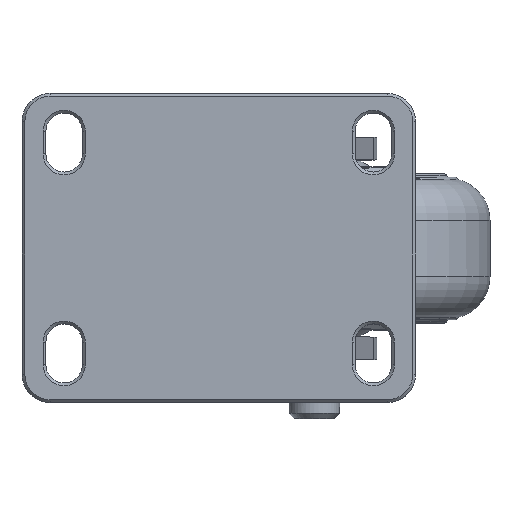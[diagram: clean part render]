
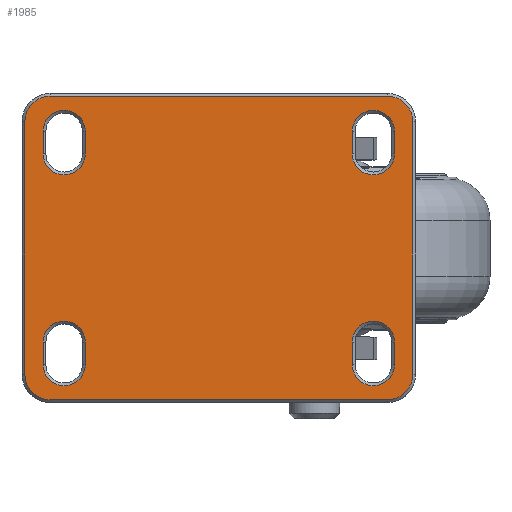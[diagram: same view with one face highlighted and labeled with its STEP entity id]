
A CAD part, top view. The second image highlights one B-rep face of the part: STEP entity #1985.
In plain terms, the highlighted planar face has unit normal (0, 0, 1).
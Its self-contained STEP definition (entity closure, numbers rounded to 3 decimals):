
#536=PLANE('',#9442);
#799=FACE_BOUND('',#3111,.T.);
#800=FACE_BOUND('',#3112,.T.);
#801=FACE_BOUND('',#3113,.T.);
#802=FACE_BOUND('',#3114,.T.);
#803=FACE_BOUND('',#3115,.T.);
#1035=LINE('',#14232,#1500);
#1036=LINE('',#14236,#1501);
#1037=LINE('',#14240,#1502);
#1038=LINE('',#14244,#1503);
#1039=LINE('',#14248,#1504);
#1040=LINE('',#14252,#1505);
#1041=LINE('',#14256,#1506);
#1042=LINE('',#14260,#1507);
#1043=LINE('',#14264,#1508);
#1044=LINE('',#14265,#1509);
#1045=LINE('',#14269,#1510);
#1046=LINE('',#14273,#1511);
#1500=VECTOR('',#11090,1.);
#1501=VECTOR('',#11093,1.);
#1502=VECTOR('',#11096,1.);
#1503=VECTOR('',#11099,1.);
#1504=VECTOR('',#11102,1.);
#1505=VECTOR('',#11105,1.);
#1506=VECTOR('',#11108,1.);
#1507=VECTOR('',#11111,1.);
#1508=VECTOR('',#11114,1.);
#1509=VECTOR('',#11115,1.);
#1510=VECTOR('',#11118,1.);
#1511=VECTOR('',#11121,1.);
#1985=ADVANCED_FACE('',(#799,#800,#801,#802,#803),#536,.T.);
#3111=EDGE_LOOP('',(#4043,#4044,#4045,#4046,#4047,#4048,#4049,#4050));
#3112=EDGE_LOOP('',(#4051,#4052,#4053,#4054));
#3113=EDGE_LOOP('',(#4055,#4056,#4057,#4058));
#3114=EDGE_LOOP('',(#4059,#4060,#4061,#4062));
#3115=EDGE_LOOP('',(#4063,#4064,#4065,#4066));
#4043=ORIENTED_EDGE('',*,*,#7533,.F.);
#4044=ORIENTED_EDGE('',*,*,#7534,.F.);
#4045=ORIENTED_EDGE('',*,*,#7535,.F.);
#4046=ORIENTED_EDGE('',*,*,#7536,.F.);
#4047=ORIENTED_EDGE('',*,*,#7537,.F.);
#4048=ORIENTED_EDGE('',*,*,#7538,.F.);
#4049=ORIENTED_EDGE('',*,*,#7539,.F.);
#4050=ORIENTED_EDGE('',*,*,#7540,.F.);
#4051=ORIENTED_EDGE('',*,*,#7541,.F.);
#4052=ORIENTED_EDGE('',*,*,#7542,.F.);
#4053=ORIENTED_EDGE('',*,*,#7543,.F.);
#4054=ORIENTED_EDGE('',*,*,#7544,.F.);
#4055=ORIENTED_EDGE('',*,*,#7545,.F.);
#4056=ORIENTED_EDGE('',*,*,#7546,.F.);
#4057=ORIENTED_EDGE('',*,*,#7547,.F.);
#4058=ORIENTED_EDGE('',*,*,#7548,.F.);
#4059=ORIENTED_EDGE('',*,*,#7549,.F.);
#4060=ORIENTED_EDGE('',*,*,#7550,.F.);
#4061=ORIENTED_EDGE('',*,*,#7532,.F.);
#4062=ORIENTED_EDGE('',*,*,#7551,.F.);
#4063=ORIENTED_EDGE('',*,*,#7552,.F.);
#4064=ORIENTED_EDGE('',*,*,#7553,.F.);
#4065=ORIENTED_EDGE('',*,*,#7554,.F.);
#4066=ORIENTED_EDGE('',*,*,#7555,.F.);
#6562=VERTEX_POINT('',#14224);
#6563=VERTEX_POINT('',#14226);
#6564=VERTEX_POINT('',#14230);
#6565=VERTEX_POINT('',#14231);
#6566=VERTEX_POINT('',#14233);
#6567=VERTEX_POINT('',#14235);
#6568=VERTEX_POINT('',#14237);
#6569=VERTEX_POINT('',#14239);
#6570=VERTEX_POINT('',#14241);
#6571=VERTEX_POINT('',#14243);
#6572=VERTEX_POINT('',#14246);
#6573=VERTEX_POINT('',#14247);
#6574=VERTEX_POINT('',#14249);
#6575=VERTEX_POINT('',#14251);
#6576=VERTEX_POINT('',#14254);
#6577=VERTEX_POINT('',#14255);
#6578=VERTEX_POINT('',#14257);
#6579=VERTEX_POINT('',#14259);
#6580=VERTEX_POINT('',#14262);
#6581=VERTEX_POINT('',#14263);
#6582=VERTEX_POINT('',#14267);
#6583=VERTEX_POINT('',#14268);
#6584=VERTEX_POINT('',#14270);
#6585=VERTEX_POINT('',#14272);
#7532=EDGE_CURVE('',#6563,#6562,#8853,.T.);
#7533=EDGE_CURVE('',#6564,#6565,#8854,.T.);
#7534=EDGE_CURVE('',#6566,#6564,#1035,.T.);
#7535=EDGE_CURVE('',#6567,#6566,#8855,.T.);
#7536=EDGE_CURVE('',#6568,#6567,#1036,.T.);
#7537=EDGE_CURVE('',#6569,#6568,#8856,.T.);
#7538=EDGE_CURVE('',#6570,#6569,#1037,.T.);
#7539=EDGE_CURVE('',#6571,#6570,#8857,.T.);
#7540=EDGE_CURVE('',#6565,#6571,#1038,.T.);
#7541=EDGE_CURVE('',#6572,#6573,#8858,.T.);
#7542=EDGE_CURVE('',#6574,#6572,#1039,.T.);
#7543=EDGE_CURVE('',#6575,#6574,#8859,.T.);
#7544=EDGE_CURVE('',#6573,#6575,#1040,.T.);
#7545=EDGE_CURVE('',#6576,#6577,#8860,.T.);
#7546=EDGE_CURVE('',#6578,#6576,#1041,.T.);
#7547=EDGE_CURVE('',#6579,#6578,#8861,.T.);
#7548=EDGE_CURVE('',#6577,#6579,#1042,.T.);
#7549=EDGE_CURVE('',#6580,#6581,#8862,.T.);
#7550=EDGE_CURVE('',#6562,#6580,#1043,.T.);
#7551=EDGE_CURVE('',#6581,#6563,#1044,.T.);
#7552=EDGE_CURVE('',#6582,#6583,#8863,.T.);
#7553=EDGE_CURVE('',#6584,#6582,#1045,.T.);
#7554=EDGE_CURVE('',#6585,#6584,#8864,.T.);
#7555=EDGE_CURVE('',#6583,#6585,#1046,.T.);
#8853=CIRCLE('',#9429,7.5);
#8854=CIRCLE('',#9431,9.);
#8855=CIRCLE('',#9432,9.);
#8856=CIRCLE('',#9433,9.);
#8857=CIRCLE('',#9434,9.);
#8858=CIRCLE('',#9435,7.5);
#8859=CIRCLE('',#9436,7.5);
#8860=CIRCLE('',#9437,7.5);
#8861=CIRCLE('',#9438,7.5);
#8862=CIRCLE('',#9439,7.5);
#8863=CIRCLE('',#9440,7.5);
#8864=CIRCLE('',#9441,7.5);
#9429=AXIS2_PLACEMENT_3D('',#14227,#11084,#11085);
#9431=AXIS2_PLACEMENT_3D('',#14229,#11088,#11089);
#9432=AXIS2_PLACEMENT_3D('',#14234,#11091,#11092);
#9433=AXIS2_PLACEMENT_3D('',#14238,#11094,#11095);
#9434=AXIS2_PLACEMENT_3D('',#14242,#11097,#11098);
#9435=AXIS2_PLACEMENT_3D('',#14245,#11100,#11101);
#9436=AXIS2_PLACEMENT_3D('',#14250,#11103,#11104);
#9437=AXIS2_PLACEMENT_3D('',#14253,#11106,#11107);
#9438=AXIS2_PLACEMENT_3D('',#14258,#11109,#11110);
#9439=AXIS2_PLACEMENT_3D('',#14261,#11112,#11113);
#9440=AXIS2_PLACEMENT_3D('',#14266,#11116,#11117);
#9441=AXIS2_PLACEMENT_3D('',#14271,#11119,#11120);
#9442=AXIS2_PLACEMENT_3D('',#14274,#11122,#11123);
#11084=DIRECTION('',(0.,0.,1.));
#11085=DIRECTION('',(1.,0.,0.));
#11088=DIRECTION('',(0.,0.,-1.));
#11089=DIRECTION('',(1.,0.,0.));
#11090=DIRECTION('',(0.,-1.,0.));
#11091=DIRECTION('',(0.,0.,-1.));
#11092=DIRECTION('',(0.,1.,0.));
#11093=DIRECTION('',(1.,0.,0.));
#11094=DIRECTION('',(0.,0.,-1.));
#11095=DIRECTION('',(-1.,0.,0.));
#11096=DIRECTION('',(0.,1.,0.));
#11097=DIRECTION('',(0.,0.,-1.));
#11098=DIRECTION('',(0.,-1.,0.));
#11099=DIRECTION('',(-1.,0.,0.));
#11100=DIRECTION('',(0.,0.,1.));
#11101=DIRECTION('',(-1.,0.,0.));
#11102=DIRECTION('',(0.,-1.,0.));
#11103=DIRECTION('',(0.,0.,1.));
#11104=DIRECTION('',(1.,0.,0.));
#11105=DIRECTION('',(0.,1.,0.));
#11106=DIRECTION('',(0.,0.,1.));
#11107=DIRECTION('',(-1.,0.,0.));
#11108=DIRECTION('',(0.,-1.,0.));
#11109=DIRECTION('',(0.,0.,1.));
#11110=DIRECTION('',(1.,0.,0.));
#11111=DIRECTION('',(0.,1.,0.));
#11112=DIRECTION('',(0.,0.,1.));
#11113=DIRECTION('',(-1.,0.,0.));
#11114=DIRECTION('',(0.,-1.,0.));
#11115=DIRECTION('',(0.,1.,0.));
#11116=DIRECTION('',(0.,0.,1.));
#11117=DIRECTION('',(-1.,0.,0.));
#11118=DIRECTION('',(0.,-1.,0.));
#11119=DIRECTION('',(0.,0.,1.));
#11120=DIRECTION('',(1.,0.,0.));
#11121=DIRECTION('',(0.,1.,0.));
#11122=DIRECTION('',(0.,0.,1.));
#11123=DIRECTION('',(1.,0.,0.));
#14224=CARTESIAN_POINT('',(-62.5,-33.5,0.));
#14226=CARTESIAN_POINT('',(-47.5,-33.5,0.));
#14227=CARTESIAN_POINT('',(-55.,-33.5,0.));
#14229=CARTESIAN_POINT('',(60.,-45.,0.));
#14230=CARTESIAN_POINT('',(69.,-45.,0.));
#14231=CARTESIAN_POINT('',(60.,-54.,0.));
#14232=CARTESIAN_POINT('',(69.,45.,0.));
#14233=CARTESIAN_POINT('',(69.,45.,0.));
#14234=CARTESIAN_POINT('',(60.,45.,0.));
#14235=CARTESIAN_POINT('',(60.,54.,0.));
#14236=CARTESIAN_POINT('',(-60.,54.,0.));
#14237=CARTESIAN_POINT('',(-60.,54.,0.));
#14238=CARTESIAN_POINT('',(-60.,45.,0.));
#14239=CARTESIAN_POINT('',(-69.,45.,0.));
#14240=CARTESIAN_POINT('',(-69.,-45.,0.));
#14241=CARTESIAN_POINT('',(-69.,-45.,0.));
#14242=CARTESIAN_POINT('',(-60.,-45.,0.));
#14243=CARTESIAN_POINT('',(-60.,-54.,0.));
#14244=CARTESIAN_POINT('',(60.,-54.,0.));
#14245=CARTESIAN_POINT('',(55.,33.5,0.));
#14246=CARTESIAN_POINT('',(47.5,33.5,0.));
#14247=CARTESIAN_POINT('',(62.5,33.5,0.));
#14248=CARTESIAN_POINT('',(47.5,41.5,0.));
#14249=CARTESIAN_POINT('',(47.5,41.5,0.));
#14250=CARTESIAN_POINT('',(55.,41.5,0.));
#14251=CARTESIAN_POINT('',(62.5,41.5,0.));
#14252=CARTESIAN_POINT('',(62.5,33.5,0.));
#14253=CARTESIAN_POINT('',(-55.,33.5,0.));
#14254=CARTESIAN_POINT('',(-62.5,33.5,0.));
#14255=CARTESIAN_POINT('',(-47.5,33.5,0.));
#14256=CARTESIAN_POINT('',(-62.5,41.5,0.));
#14257=CARTESIAN_POINT('',(-62.5,41.5,0.));
#14258=CARTESIAN_POINT('',(-55.,41.5,0.));
#14259=CARTESIAN_POINT('',(-47.5,41.5,0.));
#14260=CARTESIAN_POINT('',(-47.5,33.5,0.));
#14261=CARTESIAN_POINT('',(-55.,-41.5,0.));
#14262=CARTESIAN_POINT('',(-62.5,-41.5,0.));
#14263=CARTESIAN_POINT('',(-47.5,-41.5,0.));
#14264=CARTESIAN_POINT('',(-62.5,-33.5,0.));
#14265=CARTESIAN_POINT('',(-47.5,-41.5,0.));
#14266=CARTESIAN_POINT('',(55.,-41.5,0.));
#14267=CARTESIAN_POINT('',(47.5,-41.5,0.));
#14268=CARTESIAN_POINT('',(62.5,-41.5,0.));
#14269=CARTESIAN_POINT('',(47.5,-33.5,0.));
#14270=CARTESIAN_POINT('',(47.5,-33.5,0.));
#14271=CARTESIAN_POINT('',(55.,-33.5,0.));
#14272=CARTESIAN_POINT('',(62.5,-33.5,0.));
#14273=CARTESIAN_POINT('',(62.5,-41.5,0.));
#14274=CARTESIAN_POINT('',(0.,0.,0.));
